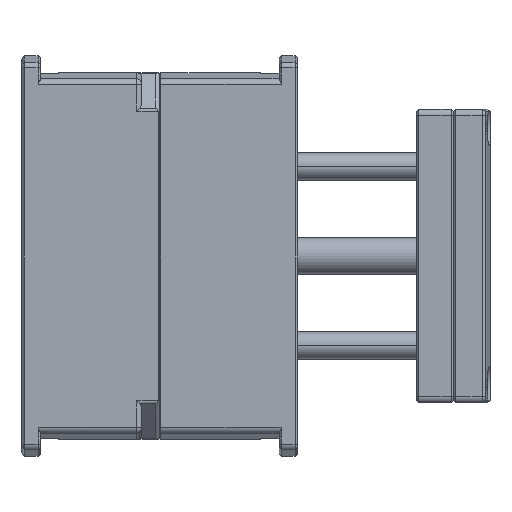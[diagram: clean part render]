
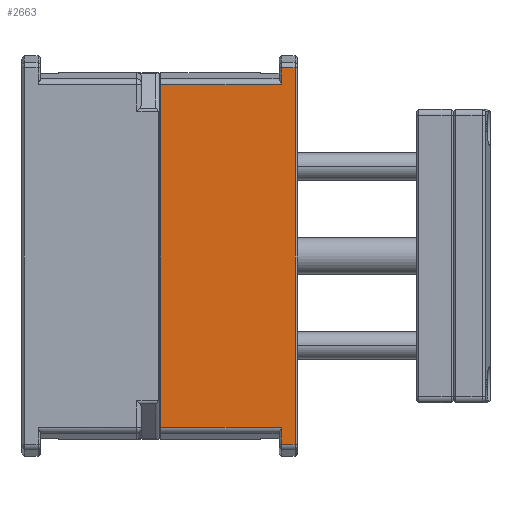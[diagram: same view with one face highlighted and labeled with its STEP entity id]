
A CAD part, left-side view. The second image highlights one B-rep face of the part: STEP entity #2663.
In plain terms, the highlighted planar face has unit normal (-1, 0, 0) as drawn and (1, 0, 0) by its records, which use the part's own axes.
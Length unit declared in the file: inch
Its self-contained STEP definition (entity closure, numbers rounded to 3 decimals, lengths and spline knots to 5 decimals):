
#294 = LINE ( 'NONE', #12769, #19975 ) ;
#601 = CARTESIAN_POINT ( 'NONE',  ( 4., 1.86, 2.33479 ) ) ;
#1218 = CARTESIAN_POINT ( 'NONE',  ( 4., 0., 2.56479 ) ) ;
#1250 = CARTESIAN_POINT ( 'NONE',  ( 4., 0.03, -2.56479 ) ) ;
#1385 = VERTEX_POINT ( 'NONE', #601 ) ;
#1555 = PLANE ( 'NONE',  #5836 ) ;
#1888 = VERTEX_POINT ( 'NONE', #21662 ) ;
#1964 = DIRECTION ( 'NONE',  ( 0., 0., 1. ) ) ;
#2276 = CARTESIAN_POINT ( 'NONE',  ( 4., 0.219, -2.728 ) ) ;
#2465 = ORIENTED_EDGE ( 'NONE', *, *, #13134, .T. ) ;
#2663 = ADVANCED_FACE ( 'NONE', ( #14365 ), #1555, .F. ) ;
#2828 = VECTOR ( 'NONE', #16631, 39.37008 ) ;
#2982 = CARTESIAN_POINT ( 'NONE',  ( 4., 0.219, 2.56479 ) ) ;
#3770 = DIRECTION ( 'NONE',  ( 0., -1., 0. ) ) ;
#3771 = LINE ( 'NONE', #5552, #22759 ) ;
#4583 = EDGE_CURVE ( 'NONE', #8662, #18455, #294, .T. ) ;
#4929 = VECTOR ( 'NONE', #14174, 39.37008 ) ;
#5257 = VECTOR ( 'NONE', #6450, 39.37008 ) ;
#5342 = VERTEX_POINT ( 'NONE', #1250 ) ;
#5413 = EDGE_LOOP ( 'NONE', ( #21073, #2465, #10532, #18648, #15515, #20777, #19950, #10050 ) ) ;
#5552 = CARTESIAN_POINT ( 'NONE',  ( 4., 0.03, -2.728 ) ) ;
#5836 = AXIS2_PLACEMENT_3D ( 'NONE', #12712, #12481, #18032 ) ;
#6450 = DIRECTION ( 'NONE',  ( 0., -1., 0. ) ) ;
#7018 = DIRECTION ( 'NONE',  ( 0., 1., 0. ) ) ;
#7274 = CARTESIAN_POINT ( 'NONE',  ( 4., 1.86, -2.33479 ) ) ;
#7327 = EDGE_CURVE ( 'NONE', #1385, #8662, #21552, .T. ) ;
#7639 = LINE ( 'NONE', #2276, #2828 ) ;
#8662 = VERTEX_POINT ( 'NONE', #22942 ) ;
#10050 = ORIENTED_EDGE ( 'NONE', *, *, #14812, .T. ) ;
#10178 = EDGE_CURVE ( 'NONE', #13083, #16525, #10502, .T. ) ;
#10502 = LINE ( 'NONE', #19259, #4929 ) ;
#10532 = ORIENTED_EDGE ( 'NONE', *, *, #10178, .T. ) ;
#10595 = EDGE_CURVE ( 'NONE', #18455, #10890, #22665, .T. ) ;
#10785 = VECTOR ( 'NONE', #3770, 39.37008 ) ;
#10890 = VERTEX_POINT ( 'NONE', #12434 ) ;
#10967 = VECTOR ( 'NONE', #18937, 39.37008 ) ;
#11731 = LINE ( 'NONE', #13271, #10967 ) ;
#12434 = CARTESIAN_POINT ( 'NONE',  ( 4., 0.03, 2.56479 ) ) ;
#12481 = DIRECTION ( 'NONE',  ( -1., 0., 0. ) ) ;
#12712 = CARTESIAN_POINT ( 'NONE',  ( 4., 1.875, -2.728 ) ) ;
#12769 = CARTESIAN_POINT ( 'NONE',  ( 4., 0.219, -2.728 ) ) ;
#13026 = DIRECTION ( 'NONE',  ( 0., 0., -1. ) ) ;
#13083 = VERTEX_POINT ( 'NONE', #16043 ) ;
#13134 = EDGE_CURVE ( 'NONE', #1888, #13083, #7639, .T. ) ;
#13271 = CARTESIAN_POINT ( 'NONE',  ( 4., 1.86, 2.33479 ) ) ;
#14174 = DIRECTION ( 'NONE',  ( 0., 1., 0. ) ) ;
#14365 = FACE_OUTER_BOUND ( 'NONE', #5413, .T. ) ;
#14563 = CARTESIAN_POINT ( 'NONE',  ( 4., 0.249, 2.33479 ) ) ;
#14812 = EDGE_CURVE ( 'NONE', #10890, #5342, #3771, .T. ) ;
#15515 = ORIENTED_EDGE ( 'NONE', *, *, #7327, .T. ) ;
#16043 = CARTESIAN_POINT ( 'NONE',  ( 4., 0.219, -2.33479 ) ) ;
#16525 = VERTEX_POINT ( 'NONE', #7274 ) ;
#16631 = DIRECTION ( 'NONE',  ( 0., 0., 1. ) ) ;
#18032 = DIRECTION ( 'NONE',  ( 0., 0., 1. ) ) ;
#18455 = VERTEX_POINT ( 'NONE', #2982 ) ;
#18648 = ORIENTED_EDGE ( 'NONE', *, *, #20219, .T. ) ;
#18789 = EDGE_CURVE ( 'NONE', #5342, #1888, #22871, .T. ) ;
#18937 = DIRECTION ( 'NONE',  ( 0., 0., 1. ) ) ;
#19259 = CARTESIAN_POINT ( 'NONE',  ( 4., 1.875, -2.33479 ) ) ;
#19950 = ORIENTED_EDGE ( 'NONE', *, *, #10595, .T. ) ;
#19975 = VECTOR ( 'NONE', #1964, 39.37008 ) ;
#20219 = EDGE_CURVE ( 'NONE', #16525, #1385, #11731, .T. ) ;
#20777 = ORIENTED_EDGE ( 'NONE', *, *, #4583, .T. ) ;
#21073 = ORIENTED_EDGE ( 'NONE', *, *, #18789, .T. ) ;
#21088 = CARTESIAN_POINT ( 'NONE',  ( 4., 0.249, -2.56479 ) ) ;
#21552 = LINE ( 'NONE', #14563, #10785 ) ;
#21662 = CARTESIAN_POINT ( 'NONE',  ( 4., 0.219, -2.56479 ) ) ;
#22632 = VECTOR ( 'NONE', #7018, 39.37008 ) ;
#22665 = LINE ( 'NONE', #1218, #5257 ) ;
#22759 = VECTOR ( 'NONE', #13026, 39.37008 ) ;
#22871 = LINE ( 'NONE', #21088, #22632 ) ;
#22942 = CARTESIAN_POINT ( 'NONE',  ( 4., 0.219, 2.33479 ) ) ;
